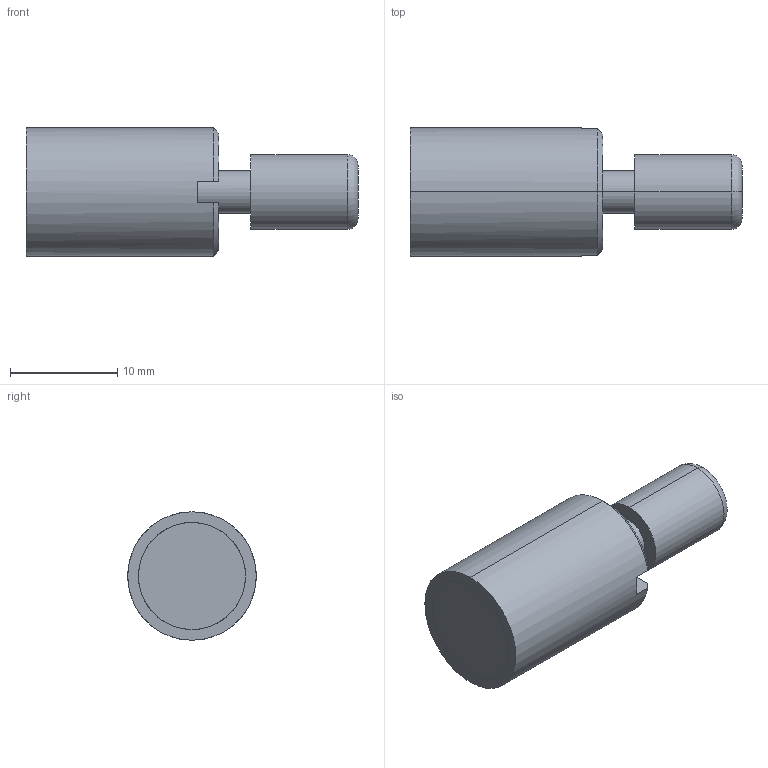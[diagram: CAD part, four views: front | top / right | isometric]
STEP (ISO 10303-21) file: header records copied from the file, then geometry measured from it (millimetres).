
FILE_DESCRIPTION(('CATIA V5 STEP Exchange'),'2;1');
FILE_NAME('C:\Users\Utente\Desktop\IO LAVORO\3D X SITO CF\X SITO\PLASTICA\CF-VPA\CF-VPA12.stp','2021-03-24T12:54:43+00:00',('none'),('none'),'CATIA Version 5 Release 20 GA (IN-10)','CATIA V5 STEP AP203','none');
FILE_SCHEMA(('CONFIG_CONTROL_DESIGN'));
Length unit declared in the file: millimetre
Products named in the file (1): CF-VPA12
Assembly tree (2 placements, depth 2):
  CF-VPA12
    #58
    #763
Bounding box: 31 x 12 x 12 mm (x, y, z)
Volume: 2327.8 mm3; surface area: 1824.7 mm2
Topology: 2 solids, 2 shells, 30 faces, 88 edges, 62 vertices
Faces by surface type: plane 12, cone 8, cylinder 8, torus 2
Entity records: 1143 total; most frequent: CARTESIAN_POINT 270, ORIENTED_EDGE 176, DIRECTION 144, EDGE_CURVE 88, AXIS2_PLACEMENT_3D 80, VERTEX_POINT 62, CIRCLE 46, EDGE_LOOP 32
